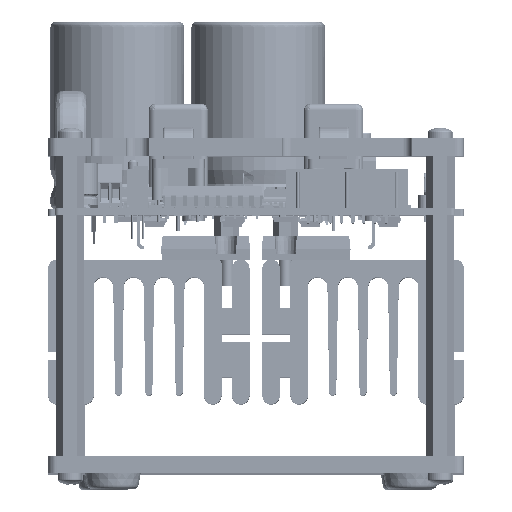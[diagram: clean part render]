
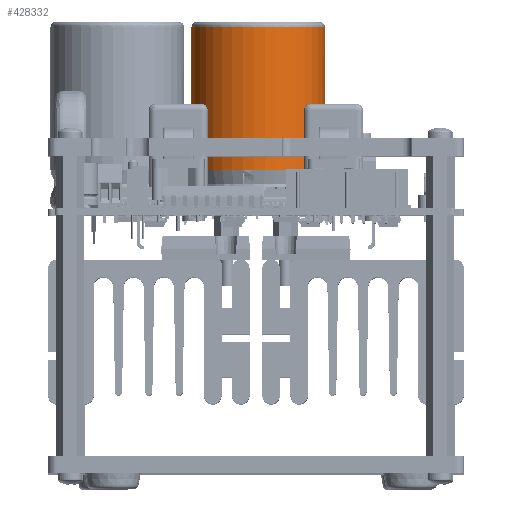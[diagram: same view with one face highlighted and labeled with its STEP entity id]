
A CAD part, top view. The second image highlights one B-rep face of the part: STEP entity #428332.
In plain terms, the highlighted cylindrical face has radius 15.24 mm (diameter 30.48 mm), a partial arc.
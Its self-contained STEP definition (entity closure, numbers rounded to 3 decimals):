
#1499 = ORIENTED_EDGE ( 'NONE', *, *, #106188, .F. ) ;
#9686 = CIRCLE ( 'NONE', #167239, 15.24 ) ;
#14629 = VERTEX_POINT ( 'NONE', #154091 ) ;
#26231 = DIRECTION ( 'NONE',  ( 0., 1., 0. ) ) ;
#26531 = ORIENTED_EDGE ( 'NONE', *, *, #406425, .T. ) ;
#29903 = VECTOR ( 'NONE', #555142, 1000. ) ;
#73487 = CIRCLE ( 'NONE', #258926, 15.24 ) ;
#85904 = CARTESIAN_POINT ( 'NONE',  ( -7.676, -0.496, 8.947 ) ) ;
#86027 = VERTEX_POINT ( 'NONE', #357889 ) ;
#87218 = DIRECTION ( 'NONE',  ( 0., 0., 1. ) ) ;
#94247 = CARTESIAN_POINT ( 'NONE',  ( -12.176, -15.057, 8.947 ) ) ;
#95611 = EDGE_CURVE ( 'NONE', #86027, #256219, #9686, .T. ) ;
#106188 = EDGE_CURVE ( 'NONE', #14629, #133417, #110950, .T. ) ;
#110950 = LINE ( 'NONE', #293678, #29903 ) ;
#130790 = CARTESIAN_POINT ( 'NONE',  ( -7.676, -15.736, 8.947 ) ) ;
#133417 = VERTEX_POINT ( 'NONE', #155672 ) ;
#136339 = EDGE_CURVE ( 'NONE', #14629, #372373, #243935, .T. ) ;
#154091 = CARTESIAN_POINT ( 'NONE',  ( -7.676, 14.744, 8.947 ) ) ;
#155278 = FACE_OUTER_BOUND ( 'NONE', #375955, .T. ) ;
#155672 = CARTESIAN_POINT ( 'NONE',  ( -7.676, 14.744, 41.563 ) ) ;
#167239 = AXIS2_PLACEMENT_3D ( 'NONE', #211844, #423849, #26231 ) ;
#167261 = DIRECTION ( 'NONE',  ( 0., 0., 1. ) ) ;
#177158 = DIRECTION ( 'NONE',  ( 0., -1., 0. ) ) ;
#191917 = CIRCLE ( 'NONE', #414331, 15.24 ) ;
#198279 = CARTESIAN_POINT ( 'NONE',  ( -12.176, -15.057, 41.563 ) ) ;
#211844 = CARTESIAN_POINT ( 'NONE',  ( -7.676, -0.496, 41.563 ) ) ;
#218607 = DIRECTION ( 'NONE',  ( 0., 0., -1. ) ) ;
#225248 = CIRCLE ( 'NONE', #438170, 15.24 ) ;
#226161 = VERTEX_POINT ( 'NONE', #242875 ) ;
#242875 = CARTESIAN_POINT ( 'NONE',  ( -7.676, -15.736, 8.947 ) ) ;
#243873 = AXIS2_PLACEMENT_3D ( 'NONE', #523677, #564443, #337949 ) ;
#243935 = CIRCLE ( 'NONE', #401277, 15.24 ) ;
#253537 = DIRECTION ( 'NONE',  ( 1., 0., 0. ) ) ;
#256219 = VERTEX_POINT ( 'NONE', #198279 ) ;
#257122 = DIRECTION ( 'NONE',  ( 0., -1., 0. ) ) ;
#258926 = AXIS2_PLACEMENT_3D ( 'NONE', #452814, #409222, #455705 ) ;
#261354 = CARTESIAN_POINT ( 'NONE',  ( -7.676, -0.496, 8.947 ) ) ;
#263755 = EDGE_CURVE ( 'NONE', #256219, #133417, #225248, .T. ) ;
#271379 = CARTESIAN_POINT ( 'NONE',  ( -8.676, -15.704, 8.947 ) ) ;
#275220 = ORIENTED_EDGE ( 'NONE', *, *, #136339, .T. ) ;
#288484 = EDGE_CURVE ( 'NONE', #423051, #226161, #191917, .T. ) ;
#293678 = CARTESIAN_POINT ( 'NONE',  ( -7.676, 14.744, 8.947 ) ) ;
#307779 = LINE ( 'NONE', #130790, #348812 ) ;
#313471 = DIRECTION ( 'NONE',  ( 0., 0., 1. ) ) ;
#337949 = DIRECTION ( 'NONE',  ( 0., -1., 0. ) ) ;
#348633 = ORIENTED_EDGE ( 'NONE', *, *, #263755, .T. ) ;
#348812 = VECTOR ( 'NONE', #87218, 1000. ) ;
#357889 = CARTESIAN_POINT ( 'NONE',  ( -7.676, -15.736, 41.563 ) ) ;
#372373 = VERTEX_POINT ( 'NONE', #94247 ) ;
#375955 = EDGE_LOOP ( 'NONE', ( #1499, #275220, #378805, #477704, #26531, #434247, #348633 ) ) ;
#378805 = ORIENTED_EDGE ( 'NONE', *, *, #445179, .T. ) ;
#387006 = CARTESIAN_POINT ( 'NONE',  ( -7.676, -0.496, 41.563 ) ) ;
#401277 = AXIS2_PLACEMENT_3D ( 'NONE', #261354, #313471, #177158 ) ;
#406425 = EDGE_CURVE ( 'NONE', #226161, #86027, #307779, .T. ) ;
#409222 = DIRECTION ( 'NONE',  ( 0., 0., 1. ) ) ;
#414331 = AXIS2_PLACEMENT_3D ( 'NONE', #85904, #167261, #257122 ) ;
#423051 = VERTEX_POINT ( 'NONE', #271379 ) ;
#423849 = DIRECTION ( 'NONE',  ( 0., 0., -1. ) ) ;
#428332 = ADVANCED_FACE ( 'NONE', ( #155278 ), #509344, .T. ) ;
#434247 = ORIENTED_EDGE ( 'NONE', *, *, #95611, .T. ) ;
#438170 = AXIS2_PLACEMENT_3D ( 'NONE', #387006, #218607, #253537 ) ;
#445179 = EDGE_CURVE ( 'NONE', #372373, #423051, #73487, .T. ) ;
#452814 = CARTESIAN_POINT ( 'NONE',  ( -7.676, -0.496, 8.947 ) ) ;
#455705 = DIRECTION ( 'NONE',  ( 0., -1., 0. ) ) ;
#477704 = ORIENTED_EDGE ( 'NONE', *, *, #288484, .T. ) ;
#509344 = CYLINDRICAL_SURFACE ( 'NONE', #243873, 15.24 ) ;
#523677 = CARTESIAN_POINT ( 'NONE',  ( -7.676, -0.496, 8.947 ) ) ;
#555142 = DIRECTION ( 'NONE',  ( 0., 0., 1. ) ) ;
#564443 = DIRECTION ( 'NONE',  ( 0., 0., 1. ) ) ;
